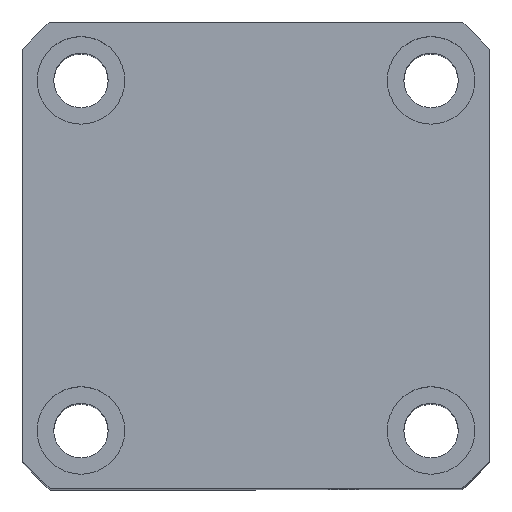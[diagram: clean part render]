
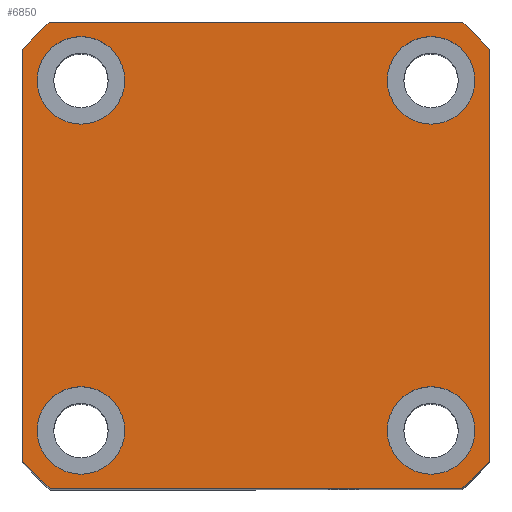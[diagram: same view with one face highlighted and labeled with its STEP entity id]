
A CAD part, top view. The second image highlights one B-rep face of the part: STEP entity #6850.
In plain terms, the highlighted planar face has unit normal (0, 0, 1) as drawn and (1, 0, 0) by its records, which use the part's own axes.
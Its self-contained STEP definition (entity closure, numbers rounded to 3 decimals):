
#133 = AXIS2_PLACEMENT_3D ( 'NONE', #4864, #6067, #9815 ) ;
#215 = DIRECTION ( 'NONE',  ( 0., 0., 1. ) ) ;
#232 = DIRECTION ( 'NONE',  ( 0., 0., -1. ) ) ;
#237 = CARTESIAN_POINT ( 'NONE',  ( 70., 18., 13.5 ) ) ;
#266 = AXIS2_PLACEMENT_3D ( 'NONE', #8810, #3819, #9677 ) ;
#294 = CIRCLE ( 'NONE', #1555, 4.5 ) ;
#297 = CARTESIAN_POINT ( 'NONE',  ( 70., 24., -21.166 ) ) ;
#313 = CIRCLE ( 'NONE', #3148, 4.5 ) ;
#338 = ORIENTED_EDGE ( 'NONE', *, *, #2424, .F. ) ;
#469 = ORIENTED_EDGE ( 'NONE', *, *, #7124, .F. ) ;
#798 = EDGE_CURVE ( 'NONE', #1637, #9588, #5648, .T. ) ;
#1158 = AXIS2_PLACEMENT_3D ( 'NONE', #10168, #5137, #232 ) ;
#1443 = EDGE_CURVE ( 'NONE', #2104, #1637, #9187, .T. ) ;
#1470 = DIRECTION ( 'NONE',  ( 1., 0., 0. ) ) ;
#1476 = CARTESIAN_POINT ( 'NONE',  ( 70., -18., 22.5 ) ) ;
#1501 = EDGE_CURVE ( 'NONE', #10088, #8373, #4977, .T. ) ;
#1548 = CARTESIAN_POINT ( 'NONE',  ( 70., 18., -18. ) ) ;
#1555 = AXIS2_PLACEMENT_3D ( 'NONE', #2735, #8587, #3589 ) ;
#1615 = DIRECTION ( 'NONE',  ( 0., 0., -1. ) ) ;
#1637 = VERTEX_POINT ( 'NONE', #9871 ) ;
#1731 = CARTESIAN_POINT ( 'NONE',  ( 70., 0., 0. ) ) ;
#1747 = DIRECTION ( 'NONE',  ( 1., 0., 0. ) ) ;
#1795 = CARTESIAN_POINT ( 'NONE',  ( 70., -18., -22.5 ) ) ;
#1831 = FACE_BOUND ( 'NONE', #3822, .T. ) ;
#1926 = EDGE_LOOP ( 'NONE', ( #6409, #338 ) ) ;
#1940 = LINE ( 'NONE', #6124, #6090 ) ;
#1985 = CARTESIAN_POINT ( 'NONE',  ( 70., 21.166, 24. ) ) ;
#2019 = VERTEX_POINT ( 'NONE', #237 ) ;
#2104 = VERTEX_POINT ( 'NONE', #297 ) ;
#2222 = DIRECTION ( 'NONE',  ( 1., 0., 0. ) ) ;
#2358 = LINE ( 'NONE', #4810, #8771 ) ;
#2365 = VERTEX_POINT ( 'NONE', #3747 ) ;
#2391 = EDGE_CURVE ( 'NONE', #2365, #7626, #3296, .T. ) ;
#2424 = EDGE_CURVE ( 'NONE', #5380, #6650, #7462, .T. ) ;
#2513 = VERTEX_POINT ( 'NONE', #4058 ) ;
#2650 = CARTESIAN_POINT ( 'NONE',  ( 70., 0., 0. ) ) ;
#2652 = EDGE_CURVE ( 'NONE', #6650, #5380, #3705, .T. ) ;
#2722 = DIRECTION ( 'NONE',  ( 1., 0., 0. ) ) ;
#2735 = CARTESIAN_POINT ( 'NONE',  ( 70., -18., 18. ) ) ;
#2776 = DIRECTION ( 'NONE',  ( 0., -1., 0. ) ) ;
#2788 = VECTOR ( 'NONE', #215, 1000. ) ;
#3097 = ORIENTED_EDGE ( 'NONE', *, *, #5570, .F. ) ;
#3148 = AXIS2_PLACEMENT_3D ( 'NONE', #7205, #2222, #8044 ) ;
#3216 = DIRECTION ( 'NONE',  ( 0., 0., -1. ) ) ;
#3239 = VERTEX_POINT ( 'NONE', #1476 ) ;
#3268 = ORIENTED_EDGE ( 'NONE', *, *, #9945, .T. ) ;
#3296 = LINE ( 'NONE', #3785, #7212 ) ;
#3413 = DIRECTION ( 'NONE',  ( 1., 0., 0. ) ) ;
#3468 = VERTEX_POINT ( 'NONE', #9150 ) ;
#3497 = DIRECTION ( 'NONE',  ( 0., 0., -1. ) ) ;
#3535 = CARTESIAN_POINT ( 'NONE',  ( 70., 18., 18. ) ) ;
#3559 = CARTESIAN_POINT ( 'NONE',  ( 70., -18., -13.5 ) ) ;
#3573 = EDGE_CURVE ( 'NONE', #3468, #2365, #8368, .T. ) ;
#3589 = DIRECTION ( 'NONE',  ( 0., 0., -1. ) ) ;
#3651 = CIRCLE ( 'NONE', #9880, 4.5 ) ;
#3705 = CIRCLE ( 'NONE', #5011, 4.5 ) ;
#3747 = CARTESIAN_POINT ( 'NONE',  ( 70., -24., 21.166 ) ) ;
#3785 = CARTESIAN_POINT ( 'NONE',  ( 70., -24., 24. ) ) ;
#3819 = DIRECTION ( 'NONE',  ( 1., 0., 0. ) ) ;
#3822 = EDGE_LOOP ( 'NONE', ( #5811, #8862 ) ) ;
#4023 = ORIENTED_EDGE ( 'NONE', *, *, #2391, .T. ) ;
#4058 = CARTESIAN_POINT ( 'NONE',  ( 70., -21.166, -24. ) ) ;
#4175 = ORIENTED_EDGE ( 'NONE', *, *, #3573, .T. ) ;
#4221 = CARTESIAN_POINT ( 'NONE',  ( 70., 18., -22.5 ) ) ;
#4240 = CARTESIAN_POINT ( 'NONE',  ( 70., 18., 22.5 ) ) ;
#4361 = DIRECTION ( 'NONE',  ( 0., 0., -1. ) ) ;
#4387 = ORIENTED_EDGE ( 'NONE', *, *, #798, .T. ) ;
#4799 = EDGE_CURVE ( 'NONE', #2513, #9725, #2358, .T. ) ;
#4809 = CIRCLE ( 'NONE', #10540, 4.5 ) ;
#4810 = CARTESIAN_POINT ( 'NONE',  ( 70., 24., -24. ) ) ;
#4864 = CARTESIAN_POINT ( 'NONE',  ( 70., -18., -18. ) ) ;
#4977 = CIRCLE ( 'NONE', #133, 4.5 ) ;
#5011 = AXIS2_PLACEMENT_3D ( 'NONE', #5608, #8552, #3216 ) ;
#5023 = ORIENTED_EDGE ( 'NONE', *, *, #1501, .F. ) ;
#5137 = DIRECTION ( 'NONE',  ( 1., 0., 0. ) ) ;
#5150 = EDGE_LOOP ( 'NONE', ( #5023, #3097 ) ) ;
#5188 = CARTESIAN_POINT ( 'NONE',  ( 70., 0., 0. ) ) ;
#5380 = VERTEX_POINT ( 'NONE', #10642 ) ;
#5561 = CARTESIAN_POINT ( 'NONE',  ( 70., 21.166, -24. ) ) ;
#5570 = EDGE_CURVE ( 'NONE', #8373, #10088, #4809, .T. ) ;
#5575 = AXIS2_PLACEMENT_3D ( 'NONE', #5188, #2722, #8572 ) ;
#5608 = CARTESIAN_POINT ( 'NONE',  ( 70., 18., -18. ) ) ;
#5648 = CIRCLE ( 'NONE', #10457, 32. ) ;
#5811 = ORIENTED_EDGE ( 'NONE', *, *, #7278, .F. ) ;
#5876 = EDGE_LOOP ( 'NONE', ( #469, #10688 ) ) ;
#5988 = PLANE ( 'NONE',  #5575 ) ;
#6067 = DIRECTION ( 'NONE',  ( 1., 0., 0. ) ) ;
#6090 = VECTOR ( 'NONE', #2776, 1000. ) ;
#6124 = CARTESIAN_POINT ( 'NONE',  ( 70., 24., 24. ) ) ;
#6250 = FACE_BOUND ( 'NONE', #5876, .T. ) ;
#6363 = EDGE_CURVE ( 'NONE', #7626, #2513, #10324, .T. ) ;
#6409 = ORIENTED_EDGE ( 'NONE', *, *, #2652, .F. ) ;
#6442 = CARTESIAN_POINT ( 'NONE',  ( 70., -18., -18. ) ) ;
#6503 = FACE_BOUND ( 'NONE', #5150, .T. ) ;
#6650 = VERTEX_POINT ( 'NONE', #4221 ) ;
#6651 = EDGE_LOOP ( 'NONE', ( #10617, #3268, #6717, #4387, #8411, #4175, #4023, #9026 ) ) ;
#6691 = DIRECTION ( 'NONE',  ( 0., 0., -1. ) ) ;
#6717 = ORIENTED_EDGE ( 'NONE', *, *, #1443, .T. ) ;
#6776 = EDGE_CURVE ( 'NONE', #8276, #2019, #10706, .T. ) ;
#6850 = ADVANCED_FACE ( 'NONE', ( #6503, #1831, #10466, #6250, #8201 ), #5988, .T. ) ;
#6853 = AXIS2_PLACEMENT_3D ( 'NONE', #2650, #8496, #3497 ) ;
#7124 = EDGE_CURVE ( 'NONE', #2019, #8276, #313, .T. ) ;
#7205 = CARTESIAN_POINT ( 'NONE',  ( 70., 18., 18. ) ) ;
#7212 = VECTOR ( 'NONE', #6691, 1000. ) ;
#7278 = EDGE_CURVE ( 'NONE', #8649, #3239, #3651, .T. ) ;
#7286 = DIRECTION ( 'NONE',  ( 0., 0., -1. ) ) ;
#7462 = CIRCLE ( 'NONE', #9761, 4.5 ) ;
#7626 = VERTEX_POINT ( 'NONE', #8789 ) ;
#7647 = CIRCLE ( 'NONE', #1158, 32. ) ;
#7925 = DIRECTION ( 'NONE',  ( 1., 0., 0. ) ) ;
#8044 = DIRECTION ( 'NONE',  ( 0., 0., -1. ) ) ;
#8201 = FACE_OUTER_BOUND ( 'NONE', #6651, .T. ) ;
#8276 = VERTEX_POINT ( 'NONE', #4240 ) ;
#8368 = CIRCLE ( 'NONE', #6853, 32. ) ;
#8373 = VERTEX_POINT ( 'NONE', #3559 ) ;
#8404 = CARTESIAN_POINT ( 'NONE',  ( 70., -18., 18. ) ) ;
#8411 = ORIENTED_EDGE ( 'NONE', *, *, #9106, .T. ) ;
#8496 = DIRECTION ( 'NONE',  ( 1., 0., 0. ) ) ;
#8552 = DIRECTION ( 'NONE',  ( 1., 0., 0. ) ) ;
#8572 = DIRECTION ( 'NONE',  ( 0., 0., -1. ) ) ;
#8584 = CARTESIAN_POINT ( 'NONE',  ( 70., 24., 24. ) ) ;
#8587 = DIRECTION ( 'NONE',  ( 1., 0., 0. ) ) ;
#8649 = VERTEX_POINT ( 'NONE', #10116 ) ;
#8771 = VECTOR ( 'NONE', #10685, 1000. ) ;
#8789 = CARTESIAN_POINT ( 'NONE',  ( 70., -24., -21.166 ) ) ;
#8810 = CARTESIAN_POINT ( 'NONE',  ( 70., 0., 0. ) ) ;
#8862 = ORIENTED_EDGE ( 'NONE', *, *, #9021, .F. ) ;
#9021 = EDGE_CURVE ( 'NONE', #3239, #8649, #294, .T. ) ;
#9026 = ORIENTED_EDGE ( 'NONE', *, *, #6363, .T. ) ;
#9106 = EDGE_CURVE ( 'NONE', #9588, #3468, #1940, .T. ) ;
#9150 = CARTESIAN_POINT ( 'NONE',  ( 70., -21.166, 24. ) ) ;
#9187 = LINE ( 'NONE', #8584, #2788 ) ;
#9265 = DIRECTION ( 'NONE',  ( 0., 0., -1. ) ) ;
#9389 = DIRECTION ( 'NONE',  ( 1., 0., 0. ) ) ;
#9588 = VERTEX_POINT ( 'NONE', #1985 ) ;
#9677 = DIRECTION ( 'NONE',  ( 0., 0., -1. ) ) ;
#9725 = VERTEX_POINT ( 'NONE', #5561 ) ;
#9761 = AXIS2_PLACEMENT_3D ( 'NONE', #1548, #7925, #1615 ) ;
#9815 = DIRECTION ( 'NONE',  ( 0., 0., -1. ) ) ;
#9871 = CARTESIAN_POINT ( 'NONE',  ( 70., 24., 21.166 ) ) ;
#9880 = AXIS2_PLACEMENT_3D ( 'NONE', #8404, #3413, #9265 ) ;
#9945 = EDGE_CURVE ( 'NONE', #9725, #2104, #7647, .T. ) ;
#10088 = VERTEX_POINT ( 'NONE', #1795 ) ;
#10116 = CARTESIAN_POINT ( 'NONE',  ( 70., -18., 13.5 ) ) ;
#10168 = CARTESIAN_POINT ( 'NONE',  ( 70., 0., 0. ) ) ;
#10281 = AXIS2_PLACEMENT_3D ( 'NONE', #3535, #9389, #4361 ) ;
#10324 = CIRCLE ( 'NONE', #266, 32. ) ;
#10457 = AXIS2_PLACEMENT_3D ( 'NONE', #1731, #1747, #10494 ) ;
#10466 = FACE_BOUND ( 'NONE', #1926, .T. ) ;
#10494 = DIRECTION ( 'NONE',  ( 0., 0., -1. ) ) ;
#10540 = AXIS2_PLACEMENT_3D ( 'NONE', #6442, #1470, #7286 ) ;
#10617 = ORIENTED_EDGE ( 'NONE', *, *, #4799, .T. ) ;
#10642 = CARTESIAN_POINT ( 'NONE',  ( 70., 18., -13.5 ) ) ;
#10685 = DIRECTION ( 'NONE',  ( 0., 1., 0. ) ) ;
#10688 = ORIENTED_EDGE ( 'NONE', *, *, #6776, .F. ) ;
#10706 = CIRCLE ( 'NONE', #10281, 4.5 ) ;
